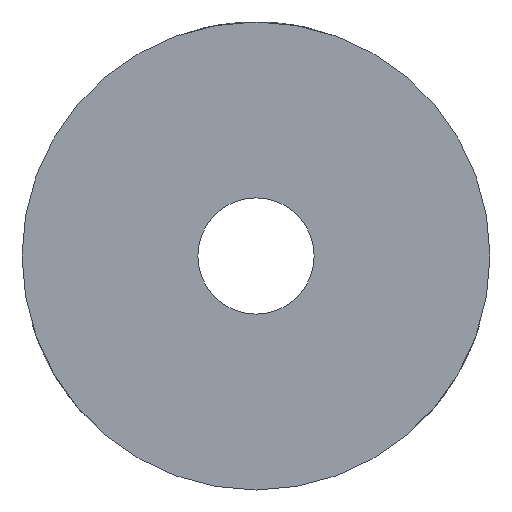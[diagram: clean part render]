
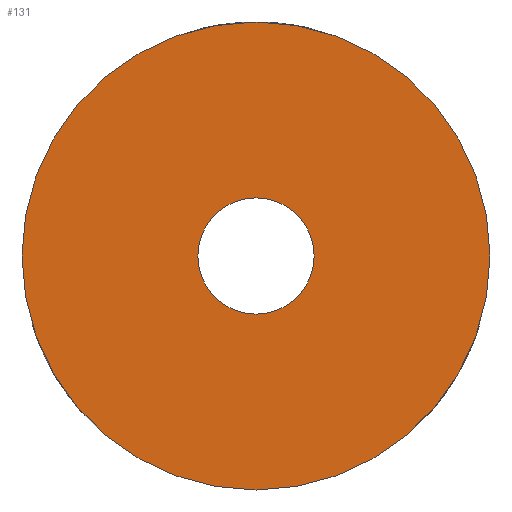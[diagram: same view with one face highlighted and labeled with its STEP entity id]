
A CAD part, left-side view. The second image highlights one B-rep face of the part: STEP entity #131.
In plain terms, the highlighted planar face has unit normal (-1, 0, 0).
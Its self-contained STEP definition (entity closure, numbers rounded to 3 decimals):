
#131=ADVANCED_FACE('',(#210,#212),#214,.T.);
#210=FACE_BOUND('',#211,.T.);
#211=EDGE_LOOP('',(#969));
#212=FACE_BOUND('',#213,.T.);
#213=EDGE_LOOP('',(#970));
#214=PLANE('',#215);
#215=AXIS2_PLACEMENT_3D('',#216,#217,#218);
#216=CARTESIAN_POINT('',(0.,0.,0.));
#217=DIRECTION('',(-1.,0.,0.));
#218=DIRECTION('',(0.,1.,0.));
#969=ORIENTED_EDGE('',*,*,#999,.F.);
#970=ORIENTED_EDGE('',*,*,#1005,.T.);
#999=EDGE_CURVE('',#1019,#1019,#1020,.T.);
#1005=EDGE_CURVE('',#1031,#1031,#1032,.T.);
#1019=VERTEX_POINT('',#1060);
#1020=CIRCLE('',#1061,22.15);
#1031=VERTEX_POINT('',#1289);
#1032=CIRCLE('',#1290,5.5);
#1060=CARTESIAN_POINT('',(0.,22.15,0.));
#1061=AXIS2_PLACEMENT_3D('',#1062,#1063,#1064);
#1062=CARTESIAN_POINT('',(0.,0.,0.));
#1063=DIRECTION('',(1.,0.,0.));
#1064=DIRECTION('',(0.,1.,0.));
#1289=CARTESIAN_POINT('',(0.,5.5,0.));
#1290=AXIS2_PLACEMENT_3D('',#1291,#1292,#1293);
#1291=CARTESIAN_POINT('',(0.,0.,0.));
#1292=DIRECTION('',(1.,0.,0.));
#1293=DIRECTION('',(0.,1.,0.));
